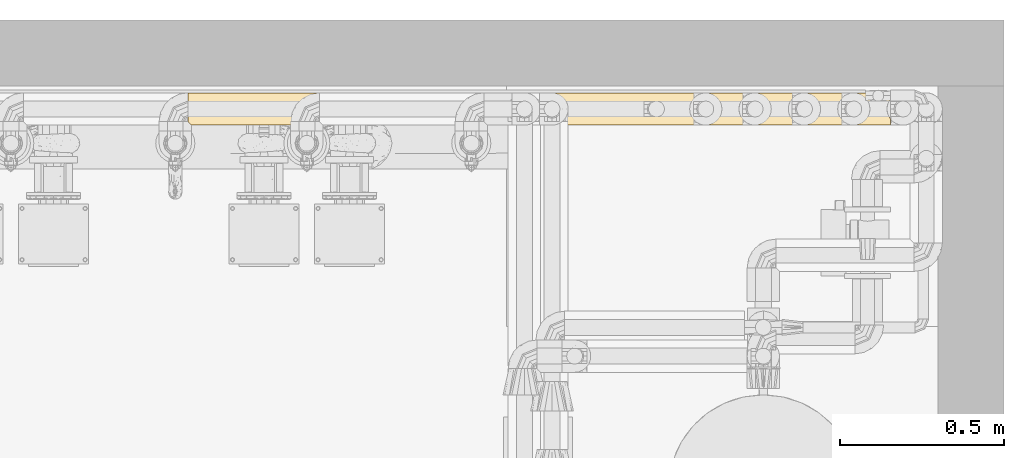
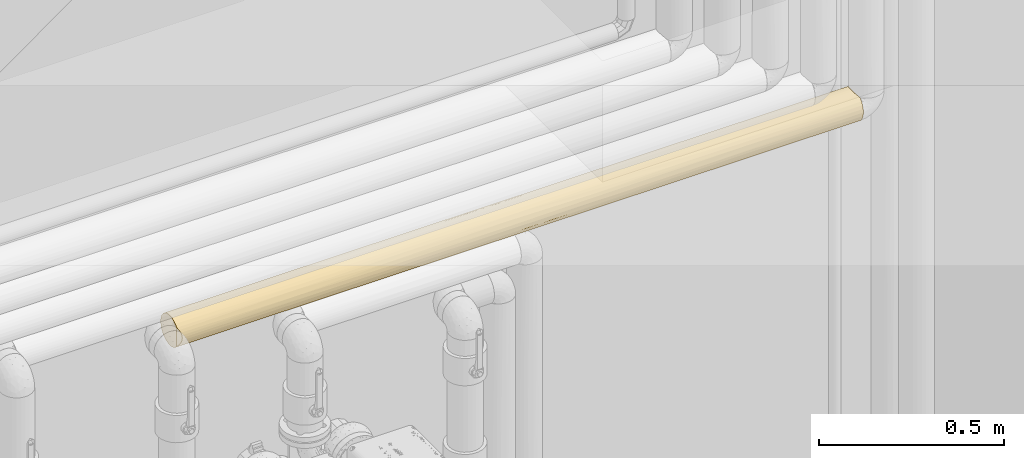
# One storey, part 8 of 94: 1 covering.
"""IFC2X3 building model written with IfcOpenShell, lengths in millimetres."""

from ifc_helpers import new_model, entity, si_unit, converted_unit, derived_unit, direction, frame, origin, place, context, subcontext, project, spatial, faceted_brep, material, element, save


model = new_model("IFC2X3")

# Units and contexts
model_context = context("Model", 3, precision=0.01, world=origin(), true_north=direction((6.123031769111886e-17, 1.0)))
body_context = subcontext(model_context, "Body", "Model", "MODEL_VIEW")
ifc_project = project(units=[si_unit("LENGTHUNIT", "METRE", prefix="MILLI"), si_unit("AREAUNIT", "SQUARE_METRE"), si_unit("VOLUMEUNIT", "CUBIC_METRE"), converted_unit("PLANEANGLEUNIT", "DEGREE", entity("IfcRatioMeasure", 0.017453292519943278), si_unit("PLANEANGLEUNIT", "RADIAN"), dimensions=[0, 0, 0, 0, 0, 0, 0]), si_unit("MASSUNIT", "GRAM", prefix="KILO"), derived_unit("MASSDENSITYUNIT", [(si_unit("MASSUNIT", "GRAM", prefix="KILO"), 1), (si_unit("LENGTHUNIT", "METRE"), -3)]), derived_unit("IONCONCENTRATIONUNIT", [(si_unit("MASSUNIT", "GRAM", prefix="KILO"), 1), (si_unit("LENGTHUNIT", "METRE"), -3)]), derived_unit("MOMENTOFINERTIAUNIT", [(si_unit("LENGTHUNIT", "METRE"), 4)]), si_unit("TIMEUNIT", "SECOND"), si_unit("FREQUENCYUNIT", "HERTZ"), si_unit("THERMODYNAMICTEMPERATUREUNIT", "DEGREE_CELSIUS"), derived_unit("THERMALTRANSMITTANCEUNIT", [(si_unit("MASSUNIT", "GRAM", prefix="KILO"), 1), (si_unit("THERMODYNAMICTEMPERATUREUNIT", "KELVIN"), -1), (si_unit("TIMEUNIT", "SECOND"), -3)]), derived_unit("THERMALCONDUCTANCEUNIT", [(si_unit("MASSUNIT", "GRAM", prefix="KILO"), 1), (si_unit("THERMODYNAMICTEMPERATUREUNIT", "KELVIN"), -1), (si_unit("TIMEUNIT", "SECOND"), -3), (si_unit("LENGTHUNIT", "METRE"), 1)]), derived_unit("VOLUMETRICFLOWRATEUNIT", [(si_unit("LENGTHUNIT", "METRE"), 3), (si_unit("TIMEUNIT", "SECOND"), -1)]), derived_unit("MASSFLOWRATEUNIT", [(si_unit("MASSUNIT", "GRAM", prefix="KILO"), 1), (si_unit("TIMEUNIT", "SECOND"), -1)]), derived_unit("ROTATIONALFREQUENCYUNIT", [(si_unit("TIMEUNIT", "SECOND"), -1)]), si_unit("ELECTRICCURRENTUNIT", "AMPERE"), si_unit("ELECTRICVOLTAGEUNIT", "VOLT"), si_unit("POWERUNIT", "WATT"), si_unit("FORCEUNIT", "NEWTON", prefix="KILO"), si_unit("ILLUMINANCEUNIT", "LUX"), si_unit("LUMINOUSFLUXUNIT", "LUMEN"), si_unit("LUMINOUSINTENSITYUNIT", "CANDELA"), derived_unit("USERDEFINED", [(si_unit("MASSUNIT", "GRAM", prefix="KILO"), -1), (si_unit("LENGTHUNIT", "METRE"), -2), (si_unit("TIMEUNIT", "SECOND"), 3), (si_unit("LUMINOUSFLUXUNIT", "LUMEN"), 1)]), derived_unit("USERDEFINED", [(si_unit("MASSUNIT", "GRAM", prefix="KILO"), 1), (si_unit("TIMEUNIT", "SECOND"), -3), (si_unit("LENGTHUNIT", "METRE"), 3), (si_unit("ELECTRICCURRENTUNIT", "AMPERE"), -2)]), derived_unit("SOUNDPOWERUNIT", [(si_unit("MASSUNIT", "GRAM", prefix="KILO"), 1), (si_unit("TIMEUNIT", "SECOND"), -3), (si_unit("LENGTHUNIT", "METRE"), 2)]), derived_unit("SOUNDPRESSUREUNIT", [(si_unit("MASSUNIT", "GRAM", prefix="KILO"), 1), (si_unit("LENGTHUNIT", "METRE"), -1), (si_unit("TIMEUNIT", "SECOND"), -2)]), derived_unit("LINEARVELOCITYUNIT", [(si_unit("LENGTHUNIT", "METRE"), 1), (si_unit("TIMEUNIT", "SECOND"), -1)]), si_unit("PRESSUREUNIT", "PASCAL"), derived_unit("USERDEFINED", [(si_unit("MASSUNIT", "GRAM", prefix="KILO"), 1), (si_unit("LENGTHUNIT", "METRE"), -2), (si_unit("TIMEUNIT", "SECOND"), -2)]), derived_unit("LINEARFORCEUNIT", [(si_unit("MASSUNIT", "GRAM", prefix="KILO"), 1), (si_unit("TIMEUNIT", "SECOND"), -2)]), derived_unit("PLANARFORCEUNIT", [(si_unit("MASSUNIT", "GRAM", prefix="KILO"), 1), (si_unit("LENGTHUNIT", "METRE"), -1), (si_unit("TIMEUNIT", "SECOND"), -2)]), derived_unit("SPECIFICHEATCAPACITYUNIT", [(si_unit("THERMODYNAMICTEMPERATUREUNIT", "KELVIN"), -1), (si_unit("LENGTHUNIT", "METRE"), 2), (si_unit("TIMEUNIT", "SECOND"), -2)]), derived_unit("HEATINGVALUEUNIT", [(si_unit("LENGTHUNIT", "METRE"), 2), (si_unit("TIMEUNIT", "SECOND"), -2)]), derived_unit("VAPORPERMEABILITYUNIT", [(si_unit("LENGTHUNIT", "METRE"), -1), (si_unit("TIMEUNIT", "SECOND"), 1)]), derived_unit("DYNAMICVISCOSITYUNIT", [(si_unit("MASSUNIT", "GRAM", prefix="KILO"), 1), (si_unit("TIMEUNIT", "SECOND"), -1), (si_unit("LENGTHUNIT", "METRE"), -1)]), derived_unit("THERMALEXPANSIONCOEFFICIENTUNIT", [(si_unit("THERMODYNAMICTEMPERATUREUNIT", "KELVIN"), -1)]), derived_unit("MODULUSOFELASTICITYUNIT", [(si_unit("MASSUNIT", "GRAM", prefix="KILO"), 1), (si_unit("LENGTHUNIT", "METRE"), -1), (si_unit("TIMEUNIT", "SECOND"), -2)]), derived_unit("ISOTHERMALMOISTURECAPACITYUNIT", [(si_unit("LENGTHUNIT", "METRE"), 3), (si_unit("MASSUNIT", "GRAM", prefix="KILO"), -1)]), derived_unit("MOISTUREDIFFUSIVITYUNIT", [(si_unit("TIMEUNIT", "SECOND"), -1), (si_unit("LENGTHUNIT", "METRE"), 2)])], contexts=[model_context])

# Site, building, storey
site_placement = place(None, origin())
site = spatial("IfcSite", under=ifc_project, at=site_placement, Name="Default", CompositionType="ELEMENT")
building_placement = place(site_placement, origin())
building = spatial("IfcBuilding", under=site, at=building_placement, CompositionType="ELEMENT")
storey_placement = place(building_placement, origin())
storey = spatial("IfcBuildingStorey", under=building, at=storey_placement, Name="Niveau 0", CompositionType="ELEMENT", Elevation=0.0)

# Covering
ifc_material = material(Name="Isolation - Laine minérale")
covering_placement = place(storey_placement, frame((-8035.741137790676, 9976.120352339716, 2500.725272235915)))
element("IfcCovering", 1, at=covering_placement, inside=storey, material=ifc_material, Name="Isolation des canalisations:Laine minérale", ObjectType="Isolation des canalisations:Laine minérale", PredefinedType="INSULATION", context=body_context, shape_type="Brep", body=[
    faceted_brep([(1.5952722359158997, 20.47495615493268, -89.43799982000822), (1.5952722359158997, 12.725272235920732, -81.86619226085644), (1.5952722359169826, 12.725272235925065, -19.584352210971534), (1.5952722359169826, 20.474956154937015, -12.012544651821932), (1.5952722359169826, 29.696487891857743, -6.32316497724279), (1.5952722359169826, 39.940498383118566, -2.793596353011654), (1.5952722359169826, 50.72527223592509, -1.5952722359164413), (1.5952722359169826, 63.44105192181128, -3.269336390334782), (1.5952722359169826, 75.29027223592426, -8.17744414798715), (1.5952722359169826, 85.46542839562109, -15.985116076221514), (1.5952722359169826, 93.27310032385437, -26.160272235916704), (1.5952722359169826, 98.18120808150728, -38.00949255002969), (1.5952722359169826, 99.85527223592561, -50.72527223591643), (1.5952722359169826, 98.18120808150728, -63.44105192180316), (1.5952722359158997, 93.27310032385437, -75.29027223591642), (1.5952722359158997, 85.46542839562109, -85.46542839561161), (1.5952722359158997, 75.29027223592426, -93.27310032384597), (1.5952722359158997, 63.44105192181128, -98.18120808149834), (1.5952722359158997, 50.72527223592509, -99.85527223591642), (1.5952722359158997, 39.94049838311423, -98.65694811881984), (1.5952722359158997, 29.69648789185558, -95.12737949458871), (2138.568824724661, 2.7935963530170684, -39.94049838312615), (2138.568824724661, 1.5952722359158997, -50.725272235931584), (2138.568824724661, 3.26933639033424, -63.44105192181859), (2138.568824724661, 8.17744414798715, -75.29027223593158), (2138.568824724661, 15.98511607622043, -85.46542839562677), (2138.568824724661, 26.160272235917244, -93.27310032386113), (2138.568824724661, 38.00949255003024, -98.1812080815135), (2138.568824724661, 50.72527223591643, -99.85527223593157), (2138.568824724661, 63.44105192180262, -98.1812080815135), (2138.568824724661, 75.29027223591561, -93.27310032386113), (2138.568824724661, 85.46542839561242, -85.46542839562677), (2138.568824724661, 93.2731003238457, -75.29027223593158), (2138.568824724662, 98.18120808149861, -63.44105192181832), (2138.568824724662, 99.85527223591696, -50.725272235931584), (2138.568824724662, 98.65694811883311, -39.94049838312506), (2138.568824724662, 95.12737949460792, -29.69648789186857), (2138.568824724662, 89.43799982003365, -20.4749561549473), (2138.568824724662, 81.86619226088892, -12.725272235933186), (2138.568824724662, 19.58435221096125, -12.725272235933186), (2138.568824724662, 12.012544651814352, -20.474956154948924), (2138.568824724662, 6.323164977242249, -29.696487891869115), (1737.2325442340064, 89.70272179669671, -80.63372130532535), (1503.8753267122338, 96.1154736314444, -69.52650935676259), (1849.2185861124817, 96.1154736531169, -69.52650930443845), (1203.133157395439, 98.31930283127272, -62.914002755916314), (940.237640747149, 99.06925136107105, -59.478362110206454), (1159.595506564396, 99.85527223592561, -50.72527223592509), (1848.2289003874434, 99.13030016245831, -59.13420626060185), (367.1482514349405, 89.70272177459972, -80.63372133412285), (239.06580243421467, 95.89040624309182, -70.06092764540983), (1557.1537799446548, 98.94398934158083, -60.14398874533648), (1649.0821656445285, 99.85527223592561, -50.72527223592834), (1447.0617443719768, 91.32499105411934, -78.39149228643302), (1194.3429016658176, 94.2066942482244, -73.5971510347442), (658.0086080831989, 91.63759439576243, -77.92708826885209), (531.5068867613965, 80.63372118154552, -89.70272189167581), (233.01868825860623, 80.63372120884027, -89.70272187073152), (961.0323437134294, 59.368319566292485, -99.08904620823), (658.2103254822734, 61.42648241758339, -98.67567370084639), (935.5117893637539, 68.78577658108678, -96.41526110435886), (1849.2185861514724, 69.52650921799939, -96.1154736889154), (1848.2288992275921, 59.13420622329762, -99.13030016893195), (1557.1537777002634, 60.14398861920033, -98.94398936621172), (1805.0753902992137, 80.6337211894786, -89.70272188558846), (653.4475898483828, 70.76945461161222, -95.58045758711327), (326.43966103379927, 98.77227851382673, -60.98402887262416), (367.1482518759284, 69.5265092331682, -96.11547368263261), (365.25134374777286, 59.841357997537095, -99.00211845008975), (1214.73394349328, 72.89344796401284, -94.56964342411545), (922.3396416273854, 80.32503505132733, -89.9376547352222), (1343.0507521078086, 83.55841838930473, -87.27306852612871), (658.2103395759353, 98.97986219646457, -59.9584432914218), (531.5068918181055, 96.11547355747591, -69.52650953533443), (1649.0821083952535, 50.72527223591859, -99.85527223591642), (893.0234704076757, 96.34466246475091, -68.96336794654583), (491.0819313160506, 99.85527223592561, -50.725272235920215), (948.8689620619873, 89.70272174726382, -80.63372136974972), (1503.8753260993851, 69.52650915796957, -96.11547371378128), (1227.4529547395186, 63.06276199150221, -98.28095797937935), (1159.5953920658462, 50.725272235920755, -99.85527223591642), (980.5686262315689, 50.72527223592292, -99.85527223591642), (825.3386903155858, 50.72527223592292, -99.85527223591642), (825.3387189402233, 99.85527223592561, -50.72527223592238), (1314.8251293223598, 50.72527223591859, -99.85527223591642), (491.08198856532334, 50.72527223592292, -99.85527223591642), (1819.5809014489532, 20.816823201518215, -89.70272182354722), (1136.5118736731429, 4.302380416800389, -66.80855595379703), (746.9552548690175, 2.8295993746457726, -61.668828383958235), (766.7558350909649, 6.00290605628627, -71.06407414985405), (883.7993464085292, 10.525552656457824, -78.96955388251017), (1346.721057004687, 10.997460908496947, -79.62956096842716), (1904.1940346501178, 5.3350707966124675, -69.52650925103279), (12.725272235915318, 1.5952722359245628, -50.72527223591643), (12.003444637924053, 2.3170998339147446, -59.11608534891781), (349.1927971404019, 2.70167345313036, -61.09305213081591), (1771.3791582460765, 11.7478226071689, -80.6337212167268), (1716.4988506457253, 31.924035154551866, -96.11547364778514), (502.210602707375, 1.5952722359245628, -50.725272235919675), (1552.9507148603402, 2.5003055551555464, -60.1119377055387), (1320.3897137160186, 1.5952722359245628, -50.72527223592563), (293.6935360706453, 24.928477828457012, -92.53773806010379), (372.8840653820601, 16.39074909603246, -85.86637951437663), (323.70357669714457, 10.224929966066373, -78.53676583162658), (1649.0812624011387, 1.5952722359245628, -50.7252722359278), (1844.9613151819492, 2.345223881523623, -59.276752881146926), (1449.051952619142, 20.816823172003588, -89.7027218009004), (1100.2377349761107, 17.34280769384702, -86.77201912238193), (1437.6117082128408, 29.6399026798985, -95.10053663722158), (1487.471210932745, 40.53427971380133, -98.78669721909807), (6.355463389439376, 7.965081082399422, -74.91872078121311), (475.06451655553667, 6.143239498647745, -71.36986612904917), (9.859172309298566, 4.461372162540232, -67.26033951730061), (621.6573523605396, 24.92839653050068, -92.53768790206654), (595.921308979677, 11.956991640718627, -80.90435969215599), (778.8789376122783, 17.32941024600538, -86.75960727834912), (372.8854166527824, 34.720895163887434, -97.17542632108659), (1188.816036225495, 25.26399527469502, -92.74289086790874), (905.8582997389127, 24.211969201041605, -92.08711047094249), (1196.7729749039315, 34.643657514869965, -97.14874224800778), (1603.4118063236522, 5.335070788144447, -69.52650923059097), (1790.6964816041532, 41.57124216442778, -98.9949380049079), (785.0239666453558, 36.85891067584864, -97.85786093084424), (991.6959331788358, 1.5952722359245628, -50.72527223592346), (1869.7049478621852, 8.91285656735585, -24.92839653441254), (720.7340191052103, 12.95985604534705, -19.300278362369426), (365.41049416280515, 10.330726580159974, -22.760337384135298), (658.6353765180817, 6.180613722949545, -30.00015949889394), (1782.577959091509, 4.275118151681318, -34.72089516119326), (1495.5471986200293, 30.0063060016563, -6.177754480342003), (1438.1990861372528, 41.09013285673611, -2.549334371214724), (1164.9423876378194, 33.81169614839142, -4.598405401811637), (352.75646873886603, 34.72089518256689, -4.275118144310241), (2133.8086335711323, 26.531823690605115, -7.965081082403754), (1780.9851707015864, 22.76370363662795, -10.328396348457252), (372.4973337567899, 3.241761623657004, -38.11285296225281), (1303.3991525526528, 3.273659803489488, -37.99336831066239), (9.85917230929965, 4.461372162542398, -34.19020495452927), (12.003444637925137, 2.3170998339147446, -42.3344591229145), (1425.7441374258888, 19.364130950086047, -12.906814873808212), (791.7563534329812, 19.753786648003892, -12.587050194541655), (417.02725615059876, 17.349792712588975, -14.672057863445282), (1773.8992155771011, 38.114635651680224, -3.241288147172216), (709.5349148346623, 2.5299992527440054, -41.18731846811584), (2130.3049246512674, 34.19020495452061, -4.461372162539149), (2128.160652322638, 42.33445912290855, -2.3170998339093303), (570.3461999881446, 24.928396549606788, -8.912856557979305), (263.7083122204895, 24.928396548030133, -8.912856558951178), (6.355463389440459, 7.965081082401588, -26.531823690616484), (1010.9902135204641, 2.668060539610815, -40.51442976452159), (1029.7688625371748, 8.22082735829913, -26.085283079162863), (1713.4908858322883, 14.692944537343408, -17.327244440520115), (491.0830178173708, 50.72527223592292, -1.5952722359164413), (2127.438824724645, 50.72527223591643, -1.5952722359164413), (1637.9510791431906, 50.72527223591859, -1.5952722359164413), (835.9455822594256, 37.877984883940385, -3.304769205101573), (1067.8538122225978, 16.390749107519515, -15.584164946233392), (1185.403481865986, 42.16759435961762, -2.346319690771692), (1186.3644351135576, 24.541134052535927, -9.154275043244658), (1557.2768236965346, 8.912856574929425, -24.92839652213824), (1301.8859147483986, 6.736408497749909, -28.845218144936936), (897.908937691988, 27.37754180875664, -7.497498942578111), (819.7731756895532, 50.72527223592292, -1.5952722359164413), (1148.4633335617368, 50.725272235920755, -1.5952722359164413), (1767.2800323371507, 85.86637952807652, -16.39074911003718), (1816.4605197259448, 78.53676584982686, -10.224929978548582), (1790.9713001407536, 61.09305214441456, -2.701673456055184), (2128.1606523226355, 59.116085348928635, -2.3170998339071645), (1846.4705615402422, 92.53773806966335, -24.92847784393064), (1767.2786814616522, 97.17542632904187, -34.72089518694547), (1518.506746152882, 92.53768791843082, -24.92839655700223), (951.348062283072, 92.74289091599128, -25.26399535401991), (1234.3057986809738, 92.08711051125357, -24.211969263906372), (943.3911213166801, 97.14874228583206, -34.64365762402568), (1665.099580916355, 71.36986614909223, -6.1432395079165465), (2130.304924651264, 67.2603395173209, -4.461372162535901), (2133.80863357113, 74.91872078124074, -7.9650810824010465), (368.7849388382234, 80.63372124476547, -11.747822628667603), (793.4430395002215, 79.62956102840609, -10.997460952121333), (691.1121454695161, 89.70272184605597, -20.816823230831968), (1003.6522224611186, 66.80855607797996, -4.302380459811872), (587.213382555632, 60.11193773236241, -2.5003055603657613), (235.97006270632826, 69.52650926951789, -5.335070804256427), (1544.242788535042, 80.90435973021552, -11.956991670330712), (1361.2851601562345, 86.75960730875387, -17.329410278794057), (1256.3647517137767, 78.96955391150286, -10.525552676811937), (423.66524673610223, 96.1154736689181, -31.924035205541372), (1039.9263633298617, 86.77201916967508, -17.342807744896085), (652.6928841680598, 98.78669722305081, -40.53427973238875), (320.5831962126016, 89.70272184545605, -20.816823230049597), (349.46761430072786, 98.99493800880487, -41.57124218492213), (1393.2088428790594, 61.668828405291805, -2.8295993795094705), (702.5523890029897, 95.1005366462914, -29.639902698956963), (1373.408262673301, 71.06407417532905, -6.0029060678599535), (295.202781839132, 59.27675289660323, -2.3452238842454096), (536.7522912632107, 69.52650927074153, -5.335070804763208), (1355.1401308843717, 97.85786095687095, -36.85891076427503)], [[[0, 1, 2, 3, 4, 5, 6, 7, 8, 9, 10, 11, 12, 13, 14, 15, 16, 17, 18, 19, 20]], [[21, 22, 23, 24, 25, 26, 27, 28, 29, 30, 31, 32, 33, 34, 35, 36, 37, 38, 39, 40, 41]], [[42, 43, 44]], [[45, 46, 47]], [[33, 32, 44]], [[48, 33, 44]], [[49, 14, 50]], [[51, 52, 48]], [[53, 54, 43]], [[49, 55, 56]], [[16, 15, 57]], [[58, 59, 60]], [[29, 61, 30]], [[47, 51, 45]], [[61, 62, 63]], [[64, 42, 31]], [[42, 32, 31]], [[65, 60, 59]], [[15, 14, 49]], [[50, 13, 66]], [[16, 67, 17]], [[17, 68, 18]], [[16, 57, 67]], [[69, 70, 71]], [[72, 73, 66]], [[28, 74, 62]], [[75, 72, 46]], [[12, 76, 66]], [[64, 31, 30]], [[33, 48, 34]], [[64, 71, 42]], [[70, 77, 71]], [[61, 63, 78]], [[68, 67, 59]], [[79, 78, 63]], [[58, 80, 81, 82]], [[55, 49, 73]], [[57, 49, 56]], [[61, 64, 30]], [[54, 53, 77]], [[64, 78, 71]], [[69, 78, 79]], [[42, 44, 32]], [[51, 48, 44]], [[62, 61, 29]], [[64, 61, 78]], [[67, 57, 56]], [[51, 44, 43]], [[34, 48, 52]], [[28, 62, 29]], [[62, 74, 63]], [[45, 51, 43]], [[47, 52, 51]], [[75, 45, 54]], [[46, 72, 83]], [[72, 75, 73]], [[76, 83, 72]], [[73, 50, 66]], [[54, 45, 43]], [[55, 75, 77]], [[12, 66, 13]], [[76, 72, 66]], [[43, 42, 53]], [[77, 75, 54]], [[63, 74, 84, 80]], [[79, 60, 69]], [[63, 80, 79]], [[85, 59, 82]], [[79, 58, 60]], [[68, 59, 85]], [[65, 59, 67]], [[69, 60, 70]], [[71, 78, 69]], [[65, 70, 60]], [[56, 77, 70]], [[42, 71, 53]], [[77, 53, 71]], [[47, 46, 83]], [[75, 46, 45]], [[49, 50, 73]], [[13, 50, 14]], [[80, 58, 79]], [[59, 58, 82]], [[18, 68, 85]], [[17, 67, 68]], [[67, 56, 65]], [[70, 65, 56]], [[49, 57, 15]], [[75, 55, 73]], [[56, 55, 77]], [[86, 26, 25]], [[19, 18, 85]], [[87, 88, 89]], [[87, 90, 91]], [[23, 92, 24]], [[93, 94, 95]], [[24, 92, 96]], [[26, 97, 27]], [[88, 98, 95]], [[87, 99, 100]], [[20, 101, 0]], [[102, 103, 1]], [[22, 104, 105]], [[96, 91, 106]], [[26, 86, 97]], [[107, 106, 91]], [[97, 108, 109]], [[110, 111, 112]], [[95, 98, 93]], [[95, 112, 111]], [[102, 101, 113]], [[114, 102, 115]], [[20, 19, 116]], [[0, 102, 1]], [[101, 116, 113]], [[117, 118, 119]], [[105, 120, 92]], [[96, 25, 24]], [[119, 84, 109]], [[27, 121, 28]], [[102, 113, 115]], [[102, 114, 103]], [[19, 85, 116]], [[122, 85, 82, 81]], [[117, 108, 106]], [[121, 97, 109]], [[107, 117, 106]], [[122, 113, 116]], [[91, 96, 120]], [[86, 96, 106]], [[85, 122, 116]], [[81, 119, 122]], [[87, 91, 120]], [[107, 91, 90]], [[99, 120, 105]], [[88, 123, 98]], [[96, 86, 25]], [[97, 86, 106]], [[90, 115, 107]], [[119, 118, 122]], [[115, 90, 114]], [[118, 115, 113]], [[89, 114, 90]], [[103, 114, 111]], [[111, 110, 103]], [[1, 103, 110]], [[89, 88, 111]], [[87, 123, 88]], [[0, 101, 102]], [[20, 116, 101]], [[107, 115, 118]], [[108, 117, 119]], [[109, 108, 119]], [[106, 108, 97]], [[122, 118, 113]], [[109, 74, 121]], [[119, 81, 80, 84]], [[84, 74, 109]], [[107, 118, 117]], [[28, 121, 74]], [[27, 97, 121]], [[105, 92, 23]], [[96, 92, 120]], [[22, 105, 23]], [[105, 104, 99]], [[100, 123, 87]], [[87, 120, 99]], [[99, 104, 100]], [[112, 95, 94]], [[88, 95, 111]], [[114, 89, 111]], [[87, 89, 90]], [[124, 41, 40]], [[125, 126, 127]], [[41, 124, 128]], [[129, 130, 131]], [[4, 132, 5]], [[39, 133, 134]], [[127, 126, 135]], [[104, 128, 136]], [[137, 138, 135]], [[134, 129, 139]], [[140, 141, 125]], [[129, 134, 142]], [[135, 143, 127]], [[144, 145, 142]], [[126, 137, 135]], [[141, 146, 147]], [[134, 144, 142]], [[144, 134, 133]], [[4, 3, 147]], [[126, 148, 137]], [[149, 150, 127]], [[130, 129, 142]], [[151, 39, 134]], [[2, 148, 126]], [[4, 147, 132]], [[6, 5, 152]], [[153, 154, 142]], [[138, 93, 98]], [[155, 152, 132]], [[141, 2, 126]], [[125, 150, 156]], [[104, 22, 21]], [[41, 128, 21]], [[130, 157, 131]], [[138, 98, 135]], [[143, 135, 98]], [[131, 158, 129]], [[151, 159, 124]], [[153, 142, 145]], [[130, 142, 154]], [[128, 159, 160]], [[104, 21, 128]], [[156, 150, 160]], [[149, 100, 136]], [[155, 132, 146]], [[152, 5, 132]], [[161, 131, 155]], [[157, 162, 155]], [[156, 159, 139]], [[151, 139, 159]], [[150, 125, 127]], [[158, 140, 156]], [[149, 127, 143]], [[150, 149, 160]], [[40, 39, 151]], [[128, 124, 159]], [[40, 151, 124]], [[139, 151, 134]], [[3, 2, 141]], [[132, 147, 146]], [[3, 141, 147]], [[125, 141, 126]], [[154, 163, 130]], [[157, 155, 131]], [[161, 155, 146]], [[131, 161, 158]], [[140, 161, 146]], [[158, 156, 139]], [[98, 123, 143]], [[149, 143, 123]], [[158, 161, 140]], [[129, 158, 139]], [[141, 140, 146]], [[156, 140, 125]], [[128, 160, 136]], [[104, 136, 100]], [[152, 155, 162]], [[156, 160, 159]], [[130, 163, 157]], [[157, 163, 162]], [[100, 149, 123]], [[149, 136, 160]], [[38, 164, 165]], [[166, 153, 167]], [[168, 169, 170]], [[171, 172, 173]], [[36, 168, 37]], [[38, 37, 164]], [[174, 175, 176]], [[177, 178, 179]], [[166, 175, 174]], [[180, 181, 162]], [[164, 168, 170]], [[8, 182, 177]], [[9, 8, 177]], [[35, 34, 52]], [[183, 164, 184]], [[180, 185, 178]], [[10, 186, 11]], [[187, 179, 178]], [[173, 83, 188]], [[10, 189, 186]], [[11, 190, 12]], [[154, 166, 191]], [[186, 192, 188]], [[180, 191, 193]], [[189, 10, 9]], [[194, 195, 182]], [[166, 154, 153]], [[6, 152, 194]], [[7, 182, 8]], [[36, 35, 169]], [[164, 170, 184]], [[164, 183, 165]], [[35, 52, 169]], [[196, 52, 47]], [[171, 192, 179]], [[190, 186, 188]], [[187, 171, 179]], [[196, 170, 169]], [[178, 177, 195]], [[189, 177, 179]], [[52, 196, 169]], [[47, 173, 196]], [[180, 178, 195]], [[187, 178, 185]], [[181, 195, 194]], [[191, 163, 154]], [[177, 189, 9]], [[186, 189, 179]], [[185, 184, 187]], [[173, 172, 196]], [[184, 185, 183]], [[172, 184, 170]], [[193, 183, 185]], [[165, 183, 174]], [[174, 176, 165]], [[38, 165, 176]], [[193, 191, 174]], [[180, 163, 191]], [[37, 168, 164]], [[36, 169, 168]], [[187, 184, 172]], [[192, 171, 173]], [[188, 192, 173]], [[179, 192, 186]], [[196, 172, 170]], [[188, 76, 190]], [[83, 173, 47]], [[83, 76, 188]], [[187, 172, 171]], [[12, 190, 76]], [[11, 186, 190]], [[194, 182, 7]], [[177, 182, 195]], [[6, 194, 7]], [[194, 152, 181]], [[162, 163, 180]], [[180, 195, 181]], [[181, 152, 162]], [[175, 166, 167]], [[191, 166, 174]], [[183, 193, 174]], [[180, 193, 185]], [[1, 110, 112, 94, 93, 138, 137, 148, 2]], [[153, 145, 144, 133, 39, 38, 176, 175, 167]]]),
])

save(model, "model.ifc")
